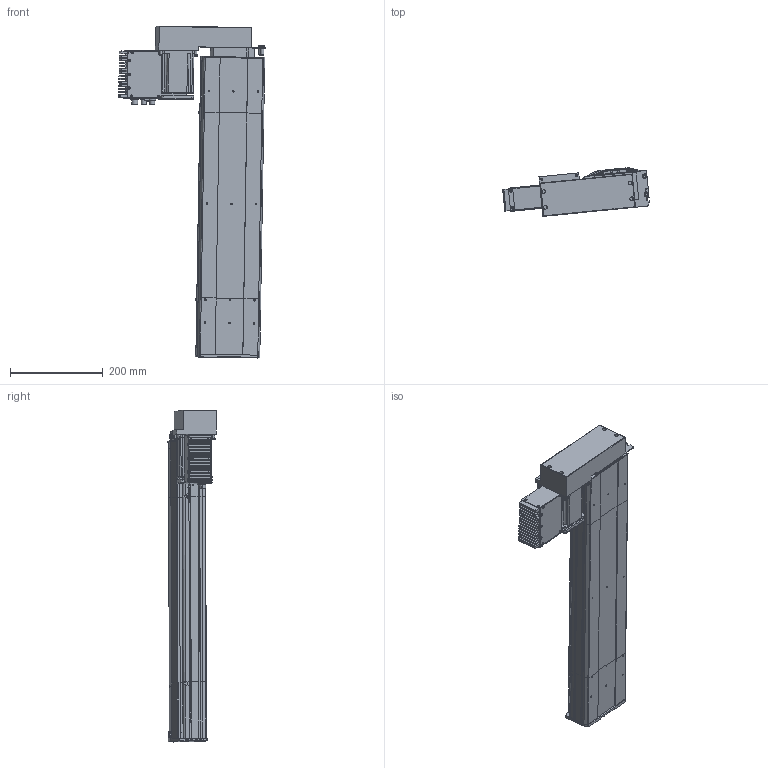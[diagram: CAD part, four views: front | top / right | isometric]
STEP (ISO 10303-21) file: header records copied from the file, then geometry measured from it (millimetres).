
FILE_DESCRIPTION (( 'STEP AP203' ), '1' );
FILE_NAME ('D14 TSH M4 BR L10 S400.STEP', '2012-10-10T13:49:50', ( '' ), ( '' ), 'SwSTEP 2.0', 'SolidWorks 2010', '' );
FILE_SCHEMA (( 'CONFIG_CONTROL_DESIGN' ));
Length unit declared in the file: millimetre
Products named in the file (27): Moteur_2; corpl tail D14_Default_2; Tôle Arrière_2; Couvercle_2; Tôle latérale_2; Vis TF 3 torkx_2; plaque de  bout tail D14_Default_2; plaque de maintient D14; Vis CHC M8; vis CHC M7; D14 TSH M4 BR L10 S400; corp head D14_Default_2; plaque de  bout head D14 MD_Default_2; T犨e contre le moteur_2; Sub D 9cts_2; T犨e fond_2; Connecteur rond D10 3cts_2; Connecteur rond D12 4cts_2; Moteur 70BLDC90A_2; Colonnette_2; Radiateur_2; Pièce402; Pièce400; couvercle D14 head_Default_2; Embout raccord d14; plaque de bout head d14 BR; vis CHC M5.5
Assembly tree (59 placements, depth 3):
  D14 TSH M4 BR L10 S400
    Embout raccord d14
      vis CHC M5.5  x4
      vis CHC M7  x2
      plaque de maintient D14
      Vis CHC M8  x2
      plaque de bout head d14 BR
    Pièce400
    Moteur_2
      T犨e contre le moteur_2
      T犨e fond_2
      Vis TF 3 torkx_2  x26
      Radiateur_2
      Colonnette_2
      Connecteur rond D10 3cts_2  x2
      Moteur 70BLDC90A_2
      Couvercle_2
      Tôle latérale_2  x2
      Tôle Arrière_2
      Sub D 9cts_2
      Connecteur rond D12 4cts_2
    corpl tail D14_Default_2
    plaque de  bout head D14 MD_Default_2
    plaque de  bout tail D14_Default_2
    couvercle D14 head_Default_2  x2
    corp head D14_Default_2
    Pièce402
Bounding box: 316.32 x 105.35 x 715.89 mm (x, y, z)
Volume: 3158083.9 mm3; surface area: 928589.4 mm2
Topology: 79 solids, 79 shells, 2575 faces, 6651 edges, 4376 vertices
Faces by surface type: plane 1388, cylinder 891, cone 150, bspline 130, torus 16
Entity records: 67429 total; most frequent: CARTESIAN_POINT 21209, ORIENTED_EDGE 8880, DIRECTION 8582, EDGE_CURVE 4440, LINE 2952, VECTOR 2952, VERTEX_POINT 2930, AXIS2_PLACEMENT_3D 2815
